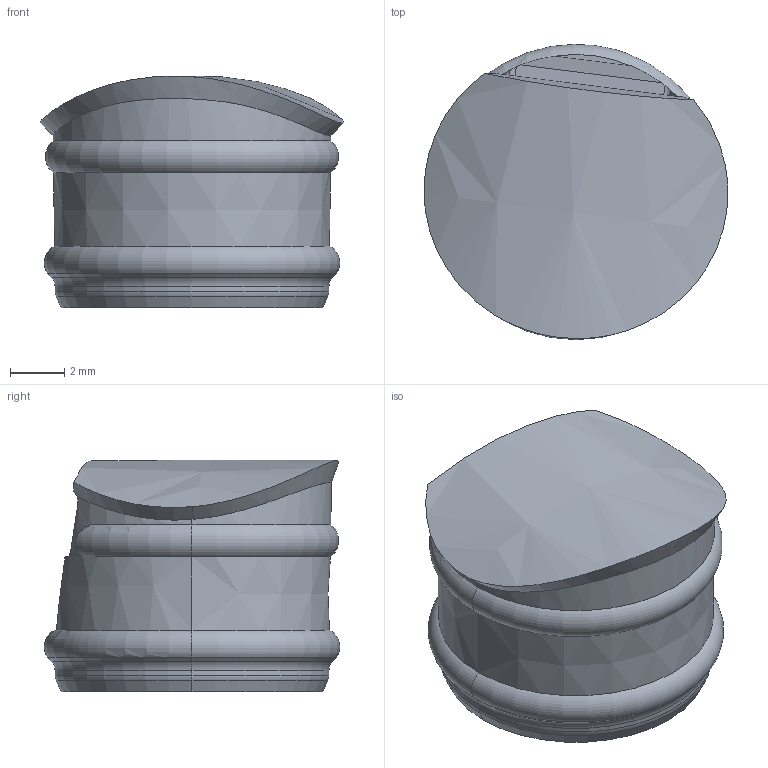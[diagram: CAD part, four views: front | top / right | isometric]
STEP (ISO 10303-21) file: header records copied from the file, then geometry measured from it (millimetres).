
FILE_DESCRIPTION (( 'STEP AP214' ), '1' );
FILE_NAME ('P-00163 - Auger End Plug (pry out) - v2.2.4.STEP', '2026-06-12T21:49:50', ( '' ), ( '' ), 'SwSTEP 2.0', 'SolidWorks 2023', '' );
FILE_SCHEMA (( 'AUTOMOTIVE_DESIGN' ));
Length unit declared in the file: inch
Products named in the file (1): P-00163 - Auger End Plug (pry out) - v2.2.4
Bounding box: 11.2 x 10.88 x 8.54 mm (x, y, z)
Volume: 530.6 mm3; surface area: 564.6 mm2
Topology: 1 solids, 1 shells, 62 faces, 143 edges, 79 vertices
Faces by surface type: bspline 24, cone 12, torus 9, plane 9, sphere 5, cylinder 3
Entity records: 7822 total; most frequent: CARTESIAN_POINT 6609, ORIENTED_EDGE 276, DIRECTION 207, EDGE_CURVE 138, AXIS2_PLACEMENT_3D 93, VERTEX_POINT 79, EDGE_LOOP 63, ADVANCED_FACE 62
